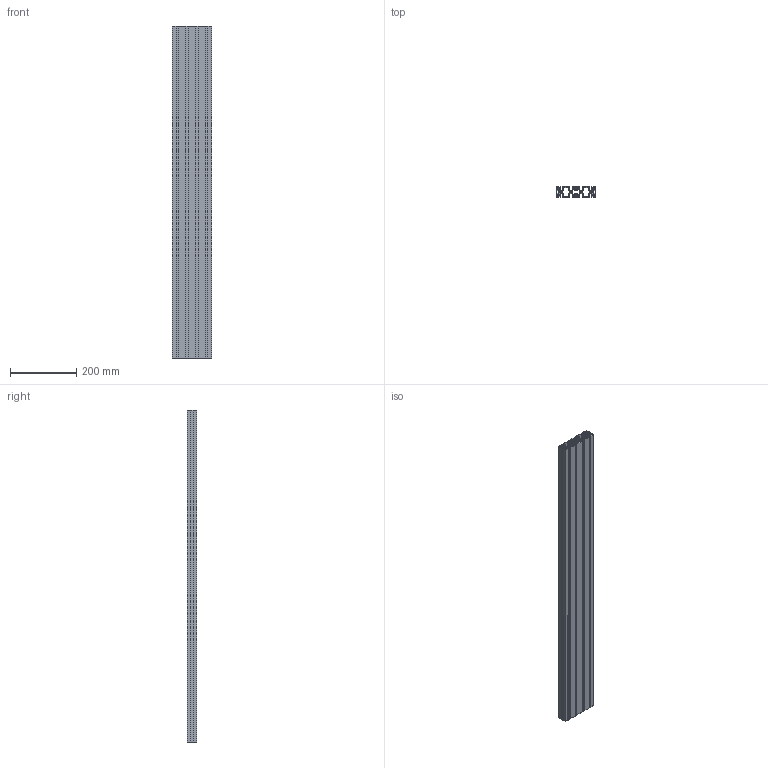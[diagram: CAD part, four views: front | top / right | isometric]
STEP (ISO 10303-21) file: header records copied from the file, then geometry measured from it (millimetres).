
FILE_DESCRIPTION(/* description */ (''),/* implementation_level */ '2;1');
FILE_NAME(/* name */ 'C:\Users\AMS43\Documents\Inventor\AMS\misumi\\X2\30D530EC30FC30E0\X0\_ipt\フレーム_stp\AFS-30120-6.ipt.stp',/* time_stamp */ '2016-10-06T11:43:48+09:00',/* author */ ('AMS43'),/* organization */ (''),/* preprocessor_version */ 'ST-DEVELOPER v15.2',/* originating_system */ 'Autodesk Inventor 2014',/* authorisation */ '');
FILE_SCHEMA (('AUTOMOTIVE_DESIGN { 1 0 10303 214 3 1 1 }'));
Length unit declared in the file: metre
Products named in the file (1): AFS-30120-6
Bounding box: 120 x 30 x 1000 mm (x, y, z)
Volume: 1061881.8 mm3; surface area: 1019297.5 mm2
Topology: 1 solids, 1 shells, 250 faces, 744 edges, 496 vertices
Faces by surface type: plane 162, cylinder 88
Full cylindrical faces by diameter (mm): 6 x4
Entity records: 8423 total; most frequent: CARTESIAN_POINT 1487, ORIENTED_EDGE 1480, DIRECTION 1418, EDGE_CURVE 740, LINE 564, VECTOR 564, VERTEX_POINT 496, AXIS2_PLACEMENT_3D 427
